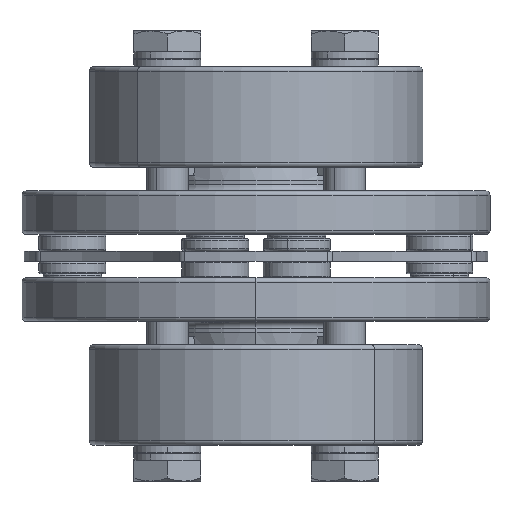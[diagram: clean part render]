
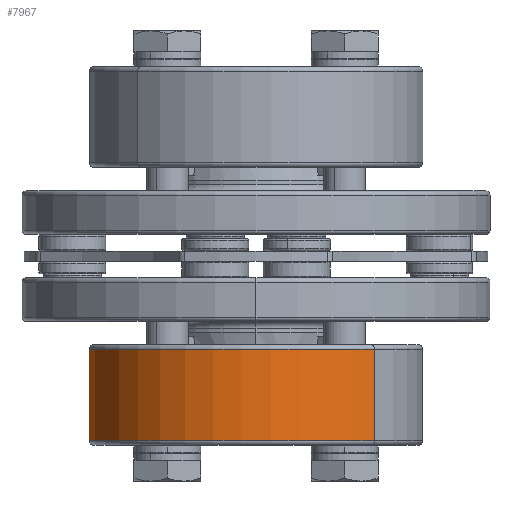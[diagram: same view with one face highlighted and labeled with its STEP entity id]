
A CAD part, front view. The second image highlights one B-rep face of the part: STEP entity #7967.
In plain terms, the highlighted cylindrical face has radius 20 mm (diameter 40 mm), a partial arc.
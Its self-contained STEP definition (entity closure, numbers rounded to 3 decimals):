
#2157 = DIRECTION ( 'NONE',  ( 0., 0., -1. ) ) ;
#2159 = VECTOR ( 'NONE', #2157, 1000. ) ;
#2161 = CARTESIAN_POINT ( 'NONE',  ( -20., 0., 0. ) ) ;
#2163 = LINE ( 'NONE', #2161, #2159 ) ;
#2258 = FACE_OUTER_BOUND ( 'NONE', #7968, .T. ) ;
#2265 = DIRECTION ( 'NONE',  ( 0., 0., -1. ) ) ;
#2266 = VECTOR ( 'NONE', #2265, 1000. ) ;
#2267 = CARTESIAN_POINT ( 'NONE',  ( 20., 0., 0. ) ) ;
#2268 = LINE ( 'NONE', #2267, #2266 ) ;
#2315 = DIRECTION ( 'NONE',  ( -1., 0., 0. ) ) ;
#2316 = DIRECTION ( 'NONE',  ( 0., 0., -1. ) ) ;
#2317 = AXIS2_PLACEMENT_3D ( 'NONE', #2322, #2316, #2315 ) ;
#2318 = CYLINDRICAL_SURFACE ( 'NONE', #2317, 20. ) ;
#2322 = CARTESIAN_POINT ( 'NONE',  ( 0., 0., 0. ) ) ;
#6654 = CARTESIAN_POINT ( 'NONE',  ( -20., 0., 0.5 ) ) ;
#6655 = CARTESIAN_POINT ( 'NONE',  ( 20., 0., 0.5 ) ) ;
#6656 = DIRECTION ( 'NONE',  ( -1., 0., 0. ) ) ;
#6657 = DIRECTION ( 'NONE',  ( 0., 0., 1. ) ) ;
#6658 = CARTESIAN_POINT ( 'NONE',  ( 0., 0., 0.5 ) ) ;
#6659 = AXIS2_PLACEMENT_3D ( 'NONE', #6658, #6657, #6656 ) ;
#6660 = CIRCLE ( 'NONE', #6659, 20. ) ;
#6725 = EDGE_CURVE ( 'NONE', #6756, #6757, #8783, .T. ) ;
#6756 = VERTEX_POINT ( 'NONE', #8846 ) ;
#6757 = VERTEX_POINT ( 'NONE', #8845 ) ;
#7659 = EDGE_CURVE ( 'NONE', #7660, #7661, #6660, .T. ) ;
#7660 = VERTEX_POINT ( 'NONE', #6655 ) ;
#7661 = VERTEX_POINT ( 'NONE', #6654 ) ;
#7939 = ORIENTED_EDGE ( 'NONE', *, *, #7940, .F. ) ;
#7940 = EDGE_CURVE ( 'NONE', #6756, #7661, #2163, .T. ) ;
#7960 = ORIENTED_EDGE ( 'NONE', *, *, #7961, .T. ) ;
#7961 = EDGE_CURVE ( 'NONE', #6757, #7660, #2268, .T. ) ;
#7962 = ORIENTED_EDGE ( 'NONE', *, *, #7659, .T. ) ;
#7967 = ADVANCED_FACE ( 'NONE', ( #2258 ), #2318, .T. ) ;
#7968 = EDGE_LOOP ( 'NONE', ( #7969, #7960, #7962, #7939 ) ) ;
#7969 = ORIENTED_EDGE ( 'NONE', *, *, #6725, .T. ) ;
#8779 = DIRECTION ( 'NONE',  ( 1., 0., 0. ) ) ;
#8780 = DIRECTION ( 'NONE',  ( 0., 0., -1. ) ) ;
#8781 = CARTESIAN_POINT ( 'NONE',  ( 0., 0., 11.5 ) ) ;
#8782 = AXIS2_PLACEMENT_3D ( 'NONE', #8781, #8780, #8779 ) ;
#8783 = CIRCLE ( 'NONE', #8782, 20. ) ;
#8845 = CARTESIAN_POINT ( 'NONE',  ( 20., 0., 11.5 ) ) ;
#8846 = CARTESIAN_POINT ( 'NONE',  ( -20., 0., 11.5 ) ) ;
